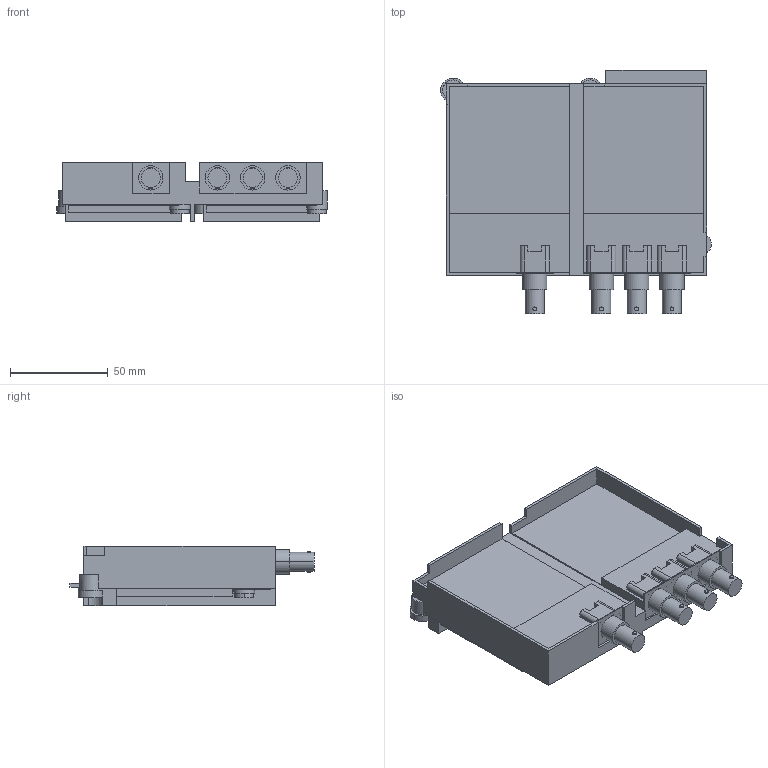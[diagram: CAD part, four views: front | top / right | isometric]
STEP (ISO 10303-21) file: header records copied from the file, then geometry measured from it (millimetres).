
FILE_DESCRIPTION((''),'2;1');
FILE_NAME('GT15_V75V4','2010-02-05T',('QR87550'),(''),'PRO/ENGINEER BY PARAMETRIC TECHNOLOGY CORPORATION, 2006510','PRO/ENGINEER BY PARAMETRIC TECHNOLOGY CORPORATION, 2006510','');
FILE_SCHEMA(('CONFIG_CONTROL_DESIGN'));
Length unit declared in the file: millimetre
Products named in the file (1): GT15_V75V4
Bounding box: 138.09 x 124.51 x 30.6 mm (x, y, z)
Volume: 235382.6 mm3; surface area: 49665.7 mm2
Topology: 1 solids, 1 shells, 246 faces, 656 edges, 436 vertices
Faces by surface type: plane 188, cylinder 58
Entity records: 8020 total; most frequent: CARTESIAN_POINT 1754, ORIENTED_EDGE 1312, DIRECTION 1242, EDGE_CURVE 656, VECTOR 530, LINE 530, VERTEX_POINT 436, AXIS2_PLACEMENT_3D 356
